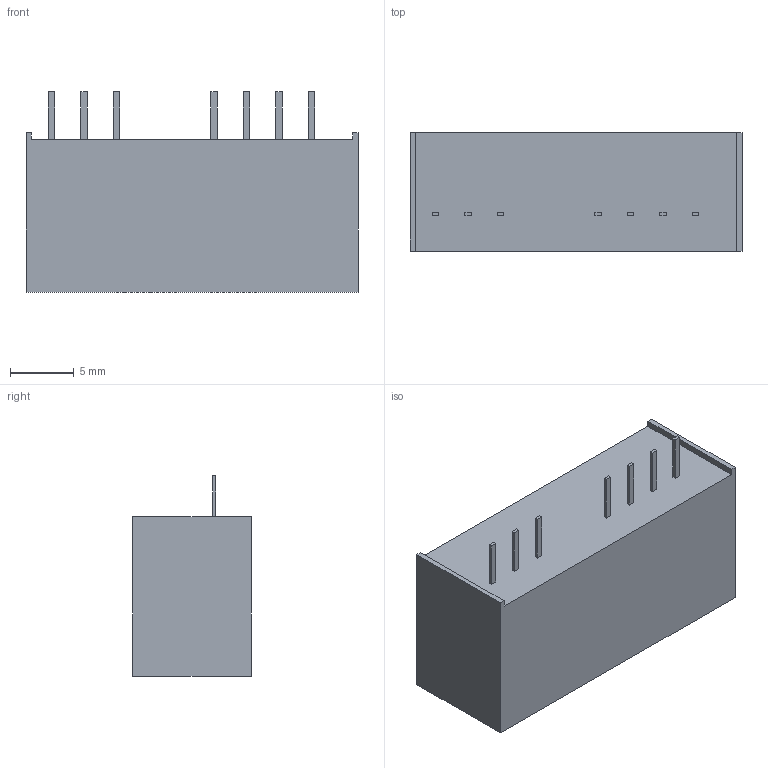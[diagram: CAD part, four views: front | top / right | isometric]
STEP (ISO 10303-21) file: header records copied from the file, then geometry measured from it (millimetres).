
FILE_DESCRIPTION(/* description */ (''),/* implementation_level */ '2;1');
FILE_NAME(/* name */ 'C:\Users\QIU\Desktop\MEW1000 3D.stp',/* time_stamp */ '2016-09-23T11:44:01+08:00',/* author */ ('QIU'),/* organization */ (''),/* preprocessor_version */ 'ST-DEVELOPER v15.2',/* originating_system */ 'Autodesk Inventor 2014',/* authorisation */ '');
FILE_SCHEMA (('AUTOMOTIVE_DESIGN { 1 0 10303 214 3 1 1 }'));
Length unit declared in the file: millimetre
Products named in the file (1): MEW1000 3D
Bounding box: 25.95 x 9.25 x 15.65 mm (x, y, z)
Volume: 2875.4 mm3; surface area: 1379.5 mm2
Topology: 1 solids, 1 shells, 45 faces, 108 edges, 72 vertices
Faces by surface type: plane 45
Entity records: 1303 total; most frequent: CARTESIAN_POINT 226, ORIENTED_EDGE 216, DIRECTION 200, LINE 108, VECTOR 108, EDGE_CURVE 108, VERTEX_POINT 72, EDGE_LOOP 52
